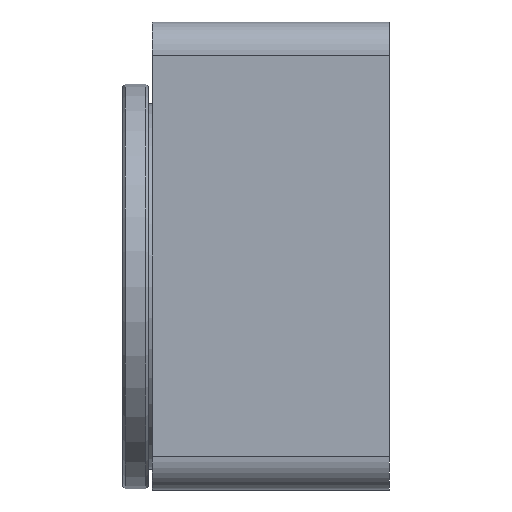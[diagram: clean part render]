
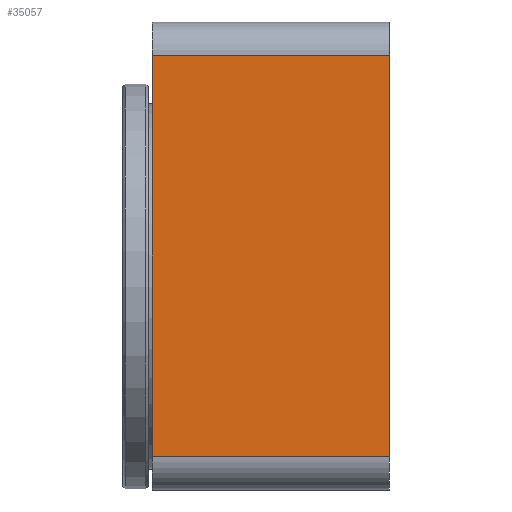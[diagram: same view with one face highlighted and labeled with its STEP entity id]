
A CAD part, left-side view. The second image highlights one B-rep face of the part: STEP entity #35057.
In plain terms, the highlighted planar face has unit normal (-1, 0, 0).
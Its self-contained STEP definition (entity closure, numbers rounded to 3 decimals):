
#729 = ORIENTED_EDGE ( 'NONE', *, *, #12027, .F. ) ;
#4403 = DIRECTION ( 'NONE',  ( 0., 0., 1. ) ) ;
#4582 = CARTESIAN_POINT ( 'NONE',  ( -49.107, -36.195, -44.45 ) ) ;
#8541 = LINE ( 'NONE', #4582, #52804 ) ;
#9589 = EDGE_CURVE ( 'NONE', #52167, #49026, #54040, .T. ) ;
#10943 = VECTOR ( 'NONE', #25817, 1000. ) ;
#11657 = LINE ( 'NONE', #26061, #10943 ) ;
#12027 = EDGE_CURVE ( 'NONE', #49026, #40495, #51258, .T. ) ;
#14412 = CARTESIAN_POINT ( 'NONE',  ( -49.107, -36.195, 36.83 ) ) ;
#16512 = AXIS2_PLACEMENT_3D ( 'NONE', #54867, #54452, #54334 ) ;
#17027 = VERTEX_POINT ( 'NONE', #37345 ) ;
#18251 = VECTOR ( 'NONE', #21806, 1000. ) ;
#18731 = CARTESIAN_POINT ( 'NONE',  ( -49.107, 8.255, 36.83 ) ) ;
#21806 = DIRECTION ( 'NONE',  ( 0., -1., 0. ) ) ;
#21866 = CARTESIAN_POINT ( 'NONE',  ( -49.107, 8.255, 36.83 ) ) ;
#23356 = ORIENTED_EDGE ( 'NONE', *, *, #37887, .F. ) ;
#25817 = DIRECTION ( 'NONE',  ( 0., 1., 0. ) ) ;
#26061 = CARTESIAN_POINT ( 'NONE',  ( -49.107, 8.255, -38.1 ) ) ;
#27231 = ORIENTED_EDGE ( 'NONE', *, *, #9589, .F. ) ;
#33552 = DIRECTION ( 'NONE',  ( 0., 0., 1. ) ) ;
#33898 = CARTESIAN_POINT ( 'NONE',  ( -49.107, 8.255, 43.18 ) ) ;
#35057 = ADVANCED_FACE ( 'NONE', ( #53073 ), #54509, .F. ) ;
#35260 = CARTESIAN_POINT ( 'NONE',  ( -49.107, 8.255, -38.1 ) ) ;
#37345 = CARTESIAN_POINT ( 'NONE',  ( -49.107, -36.195, -38.1 ) ) ;
#37887 = EDGE_CURVE ( 'NONE', #17027, #52167, #11657, .T. ) ;
#40495 = VERTEX_POINT ( 'NONE', #14412 ) ;
#45552 = EDGE_LOOP ( 'NONE', ( #729, #27231, #23356, #48297 ) ) ;
#48297 = ORIENTED_EDGE ( 'NONE', *, *, #53101, .T. ) ;
#49026 = VERTEX_POINT ( 'NONE', #18731 ) ;
#49213 = VECTOR ( 'NONE', #33552, 1000. ) ;
#51258 = LINE ( 'NONE', #21866, #18251 ) ;
#52167 = VERTEX_POINT ( 'NONE', #35260 ) ;
#52804 = VECTOR ( 'NONE', #4403, 1000. ) ;
#53073 = FACE_OUTER_BOUND ( 'NONE', #45552, .T. ) ;
#53101 = EDGE_CURVE ( 'NONE', #17027, #40495, #8541, .T. ) ;
#54040 = LINE ( 'NONE', #33898, #49213 ) ;
#54334 = DIRECTION ( 'NONE',  ( 0., 0., -1. ) ) ;
#54452 = DIRECTION ( 'NONE',  ( 1., 0., 0. ) ) ;
#54509 = PLANE ( 'NONE',  #16512 ) ;
#54867 = CARTESIAN_POINT ( 'NONE',  ( -49.107, 8.255, 43.18 ) ) ;
